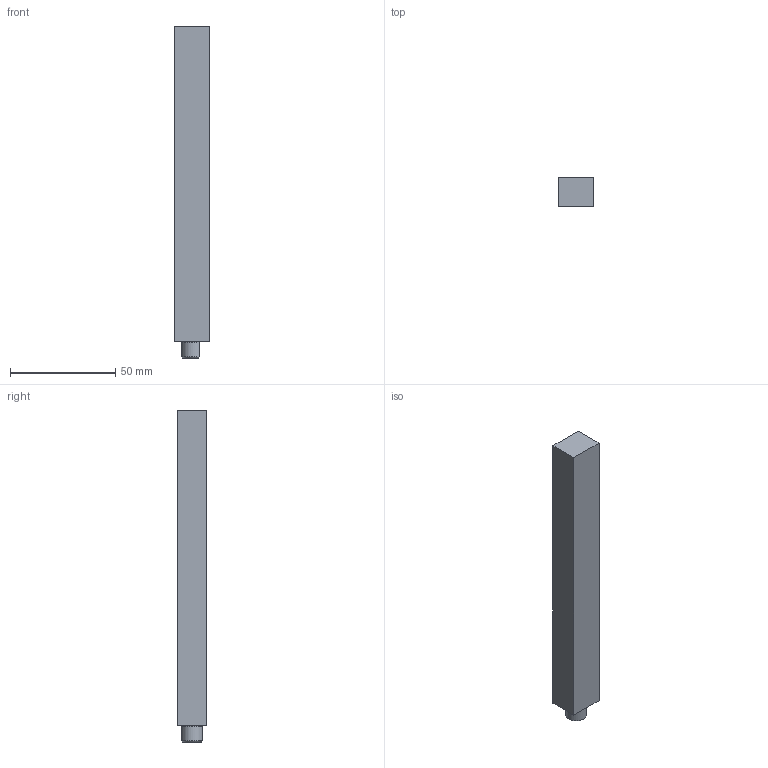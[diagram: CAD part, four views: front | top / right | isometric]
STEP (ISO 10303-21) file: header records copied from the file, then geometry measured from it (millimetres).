
FILE_DESCRIPTION (( 'STEP AP214' ), '1' );
FILE_NAME ('KKPHF Pin S_-_10-150.step', '2024-02-07T08:53:57', ( '' ), ( '' ), 'SwSTEP 2.0', 'SolidWorks 2020', '' );
FILE_SCHEMA (( 'AUTOMOTIVE_DESIGN' ));
Length unit declared in the file: millimetre
Products named in the file (1): KKPHF  Pin S_-_10-150
Bounding box: 17 x 14 x 157.9 mm (x, y, z)
Volume: 36081.9 mm3; surface area: 10169.2 mm2
Topology: 1 solids, 1 shells, 15 faces, 31 edges, 19 vertices
Faces by surface type: plane 9, cylinder 3, cone 2, torus 1
Full cylindrical faces by diameter (mm): 4.2 x1
Entity records: 425 total; most frequent: CARTESIAN_POINT 78, DIRECTION 62, ORIENTED_EDGE 56, EDGE_CURVE 28, AXIS2_PLACEMENT_3D 22, LINE 18, VERTEX_POINT 18, EDGE_LOOP 18
